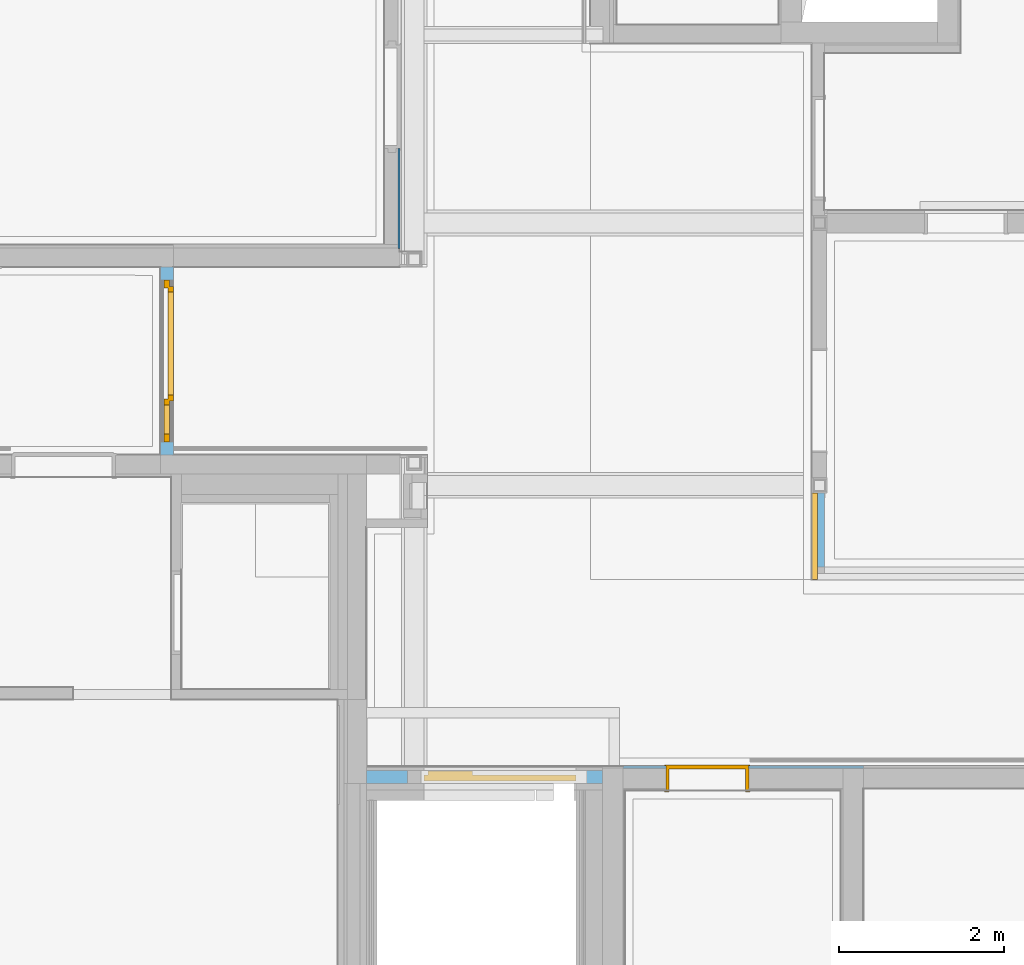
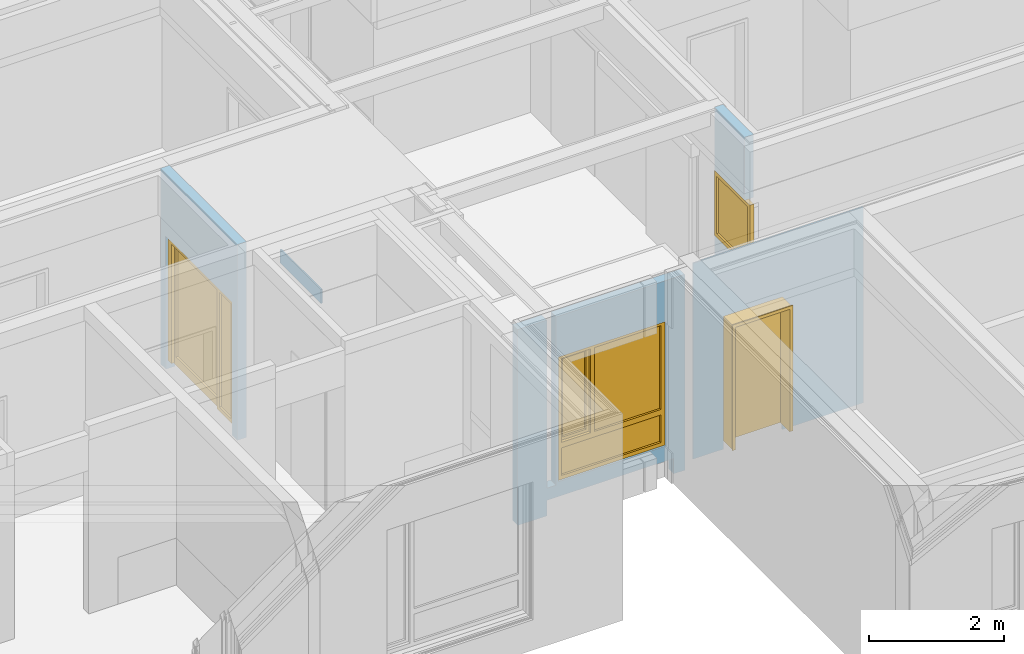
# One storey, part 81 of 222: 2 doors, 2 windows, 1 wall, 4 openings, plus 4 elements that do not belong to this part.
"""IFC4 building model written with IfcOpenShell, lengths in metres."""

from ifc_helpers import new_model, entity, si_unit, converted_unit, derived_unit, frame, frame_2d, origin, origin_with_axes, place, context, subcontext, project, spatial, polyline, rectangle, outline, extrude, clip, bounded_halfspace, closed_shell, open_shell, faceted_brep, surface_model, source, transform, mapped, material, type_object, element, fill, save


model = new_model("IFC4")

# Units and contexts
model_context = context("Model", 3, precision=1e-05, world=origin())
body_context = subcontext(model_context, "Body", "Model", "MODEL_VIEW")
ifc_project = project(units=[si_unit("LENGTHUNIT", "METRE"), si_unit("AREAUNIT", "SQUARE_METRE"), si_unit("VOLUMEUNIT", "CUBIC_METRE"), si_unit("MASSUNIT", "GRAM", prefix="KILO"), converted_unit("PLANEANGLEUNIT", "DEGREE", entity("IfcPlaneAngleMeasure", 0.0174532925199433), si_unit("PLANEANGLEUNIT", "RADIAN"), dimensions=[0, 0, 0, 0, 0, 0, 0]), derived_unit("THERMALTRANSMITTANCEUNIT", [(si_unit("POWERUNIT", "WATT"), 1), (si_unit("THERMODYNAMICTEMPERATUREUNIT", "KELVIN"), -1), (si_unit("LENGTHUNIT", "METRE"), -2)]), derived_unit("VOLUMETRICFLOWRATEUNIT", [(si_unit("LENGTHUNIT", "METRE"), 3), (converted_unit("TIMEUNIT", "hour", entity("IfcTimeMeasure", 3600.0), si_unit("TIMEUNIT", "SECOND"), dimensions=[0, 0, 1, 0, 0, 0, 0]), -1), (si_unit("LENGTHUNIT", "METRE"), -1)])], contexts=[model_context])

# Site, building, storey
site_placement = place(None, origin())
site = spatial("IfcSite", under=ifc_project, at=site_placement, Name="Psychiatrie Neubau Wunstorf", CompositionType="ELEMENT")
building_placement = place(site_placement, origin())
building = spatial("IfcBuilding", under=site, at=building_placement, Name="Neubau H2 Stationsgebäude", CompositionType="ELEMENT")
storey_placement = place(building_placement, frame((0.0, 0.0, 3.6)))
storey = spatial("IfcBuildingStorey", under=building, at=storey_placement, Name="H2 Ebene +1", CompositionType="ELEMENT", Elevation=3.6)

# Wall, opening, window
ifc_material_1 = material(Name="WA-HD")
wall_1_placement = place(storey_placement, frame((38.03, 0.5000024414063, 0.0), z_axis=(0.0, 0.0, 1.0), x_axis=(-1.0, 3.37231938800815e-16, 0.0)))
wall_1 = element("IfcWall", 1, at=wall_1_placement, inside=storey, material=ifc_material_1, context=body_context, shape_type="Clipping", body=[
    clip(clip(extrude(rectangle(XDim=2.8655, YDim=0.16, at=frame_2d((1.43275, 0.08), x_axis=(1.0, 0.0))), origin_with_axes(), (0.0, 0.0, 1.0), 3.55), bounded_halfspace(frame((1.27750249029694, 0.0800006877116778, 0.28), z_axis=(0.0, 0.0, 1.0), x_axis=(-1.0, 2.86558964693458e-17, 0.0)), True, origin_with_axes(), polyline([(2.36500498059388, 0.16), (0.19, 0.16), (0.19, 1.37542335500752e-06), (2.36500498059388, 1.37542335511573e-06), (2.36500498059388, 0.16)]))), bounded_halfspace(frame((2.28500498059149, 0.0800000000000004, 0.5), z_axis=(0.0, 0.0, -1.0), x_axis=(-3.37231938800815e-16, 1.0, 0.0)), True, origin_with_axes(), polyline([(2.36500498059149, 0.0), (2.36500498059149, 0.16), (2.20500498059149, 0.16), (2.20500498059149, 0.0), (2.36500498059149, 0.0)]))),
])
opening_1_placement = place(wall_1_placement, frame((2.16900498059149, 0.16, 0.55), z_axis=(0.0, -1.0, 0.0), x_axis=(0.0, 0.0, 1.0)))
opening_1 = element("IfcOpeningElement", 2, at=opening_1_placement, cuts=wall_1, Name="Fensteröffnung", ObjectType="Opening", context=body_context, shape_type="SweptSolid", body=[
    extrude(outline(polyline([(2.26, 1.8480211), (2.26, 0.0), (0.0, 0.0), (0.0, 1.8480211), (2.26, 1.8480211)])), origin_with_axes(), (0.0, 0.0, 1.0), 0.16),
])
shared_shape_1 = source(origin_with_axes(), body_context, "Body", "SurfaceModel", [
    surface_model("IfcShellBasedSurfaceModel", [(1.8480211, 0.0, 2.26), (1.8480211, 0.0, 0.0), (1.77802109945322, 0.0, 0.0), (1.77802109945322, 0.0, 2.26), (1.8480211, 0.0700000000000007, 0.0), (1.8480211, 0.0700000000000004, 2.26), (1.77802109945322, 0.0700000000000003, 2.26), (1.77802109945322, 0.0700000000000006, 0.0)], [closed_shell([[[0, 1, 2, 3]], [[4, 5, 6, 7]], [[1, 0, 5, 4]], [[2, 1, 4, 7]], [[3, 2, 7, 6]], [[0, 3, 6, 5]]], orient=[[False], [False], [False], [False], [False], [False]])]),
    surface_model("IfcShellBasedSurfaceModel", [(0.0700000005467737, 0.0, 2.26), (0.0700000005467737, 0.0, 0.0), (0.0, 0.0, 0.0), (0.0, 0.0, 2.26), (0.0700000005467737, 0.0700000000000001, 0.0), (0.0700000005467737, 0.0699999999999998, 2.26), (0.0, 0.0699999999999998, 2.26), (0.0, 0.0700000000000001, 0.0)], [closed_shell([[[0, 1, 2, 3]], [[4, 5, 6, 7]], [[1, 0, 5, 4]], [[2, 1, 4, 7]], [[3, 2, 7, 6]], [[0, 3, 6, 5]]], orient=[[False], [False], [False], [False], [False], [False]])]),
    surface_model("IfcShellBasedSurfaceModel", [(1.77802109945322, 0.0, 0.07), (1.77802109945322, 0.0, 0.0), (0.0700000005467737, 0.0, 0.0), (0.0700000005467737, 0.0, 0.07), (1.77802109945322, 0.0700000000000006, 0.0), (1.77802109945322, 0.0700000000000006, 0.07), (0.0700000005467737, 0.0700000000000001, 0.07), (0.0700000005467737, 0.0700000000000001, 0.0)], [closed_shell([[[0, 1, 2, 3]], [[4, 5, 6, 7]], [[1, 0, 5, 4]], [[2, 1, 4, 7]], [[3, 2, 7, 6]], [[0, 3, 6, 5]]], orient=[[False], [False], [False], [False], [False], [False]])]),
    surface_model("IfcShellBasedSurfaceModel", [(1.77802109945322, 0.0, 2.26), (1.77802109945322, 0.0, 2.19), (0.0700000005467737, 0.0, 2.19), (0.0700000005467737, 0.0, 2.26), (1.77802109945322, 0.0700000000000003, 2.19), (1.77802109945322, 0.0700000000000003, 2.26), (0.0700000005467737, 0.0699999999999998, 2.26), (0.0700000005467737, 0.0699999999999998, 2.19)], [closed_shell([[[0, 1, 2, 3]], [[4, 5, 6, 7]], [[1, 0, 5, 4]], [[2, 1, 4, 7]], [[3, 2, 7, 6]], [[0, 3, 6, 5]]], orient=[[False], [False], [False], [False], [False], [False]])]),
    surface_model("IfcShellBasedSurfaceModel", [(1.77802109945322, 0.0, 0.67), (1.77802109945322, 0.0, 0.57), (0.0700000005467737, 0.0, 0.57), (0.0700000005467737, 0.0, 0.67), (1.77802109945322, 0.0700000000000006, 0.57), (1.77802109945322, 0.0700000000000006, 0.67), (0.0700000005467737, 0.07, 0.67), (0.0700000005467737, 0.07, 0.57)], [closed_shell([[[0, 1, 2, 3]], [[4, 5, 6, 7]], [[1, 0, 5, 4]], [[2, 1, 4, 7]], [[3, 2, 7, 6]], [[0, 3, 6, 5]]], orient=[[False], [False], [False], [False], [False], [False]])]),
    surface_model("IfcShellBasedSurfaceModel", [(1.77802109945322, 0.0350000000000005, 0.07), (0.0700000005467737, 0.0349999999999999, 0.07), (0.0700000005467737, 0.0349999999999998, 0.57), (1.77802109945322, 0.0350000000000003, 0.57)], [open_shell([[[0, 1, 2, 3]]], orient=[[False]])]),
    surface_model("IfcShellBasedSurfaceModel", [(1.27802109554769, 0.0, 2.19), (1.27802109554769, 0.0, 0.67), (1.20802109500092, 0.0, 0.67), (1.20802109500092, 0.0, 2.19), (1.27802109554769, 0.0700000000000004, 0.67), (1.27802109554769, 0.0700000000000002, 2.19), (1.20802109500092, 0.0700000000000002, 2.19), (1.20802109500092, 0.0700000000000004, 0.67)], [closed_shell([[[0, 1, 2, 3]], [[4, 5, 6, 7]], [[1, 0, 5, 4]], [[2, 1, 4, 7]], [[3, 2, 7, 6]], [[0, 3, 6, 5]]], orient=[[False], [False], [False], [False], [False], [False]])]),
    surface_model("IfcShellBasedSurfaceModel", [(1.79802109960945, -0.0500000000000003, 2.21), (1.79802109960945, -0.0500000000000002, 0.65), (1.72802109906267, -0.0500000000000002, 0.65), (1.72802109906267, -0.0500000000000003, 2.21), (1.79802109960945, 0.0200000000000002, 0.65), (1.79802109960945, 0.0200000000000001, 2.21), (1.72802109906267, 0.0200000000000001, 2.21), (1.72802109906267, 0.0200000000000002, 0.65)], [closed_shell([[[0, 1, 2, 3]], [[4, 5, 6, 7]], [[1, 0, 5, 4]], [[2, 1, 4, 7]], [[3, 2, 7, 6]], [[0, 3, 6, 5]]], orient=[[False], [False], [False], [False], [False], [False]])]),
    surface_model("IfcShellBasedSurfaceModel", [(1.32802109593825, -0.0500000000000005, 2.21), (1.32802109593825, -0.0500000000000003, 0.65), (1.25802109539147, -0.0500000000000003, 0.65), (1.25802109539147, -0.0500000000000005, 2.21), (1.32802109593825, 0.0200000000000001, 0.65), (1.32802109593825, 0.0199999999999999, 2.21), (1.25802109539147, 0.0199999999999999, 2.21), (1.25802109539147, 0.0200000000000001, 0.65)], [closed_shell([[[0, 1, 2, 3]], [[4, 5, 6, 7]], [[1, 0, 5, 4]], [[2, 1, 4, 7]], [[3, 2, 7, 6]], [[0, 3, 6, 5]]], orient=[[False], [False], [False], [False], [False], [False]])]),
    surface_model("IfcShellBasedSurfaceModel", [(1.72802109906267, -0.0500000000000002, 0.72), (1.72802109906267, -0.0500000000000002, 0.65), (1.32802109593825, -0.0500000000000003, 0.65), (1.32802109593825, -0.0500000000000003, 0.72), (1.72802109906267, 0.0200000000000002, 0.65), (1.72802109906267, 0.0200000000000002, 0.72), (1.32802109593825, 0.0200000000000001, 0.72), (1.32802109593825, 0.0200000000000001, 0.65)], [closed_shell([[[0, 1, 2, 3]], [[4, 5, 6, 7]], [[1, 0, 5, 4]], [[2, 1, 4, 7]], [[3, 2, 7, 6]], [[0, 3, 6, 5]]], orient=[[False], [False], [False], [False], [False], [False]])]),
    surface_model("IfcShellBasedSurfaceModel", [(1.72802109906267, -0.0500000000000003, 2.21), (1.72802109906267, -0.0500000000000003, 2.14), (1.32802109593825, -0.0500000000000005, 2.14), (1.32802109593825, -0.0500000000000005, 2.21), (1.72802109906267, 0.0200000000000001, 2.14), (1.72802109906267, 0.0200000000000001, 2.21), (1.32802109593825, 0.0199999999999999, 2.21), (1.32802109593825, 0.0199999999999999, 2.14)], [closed_shell([[[0, 1, 2, 3]], [[4, 5, 6, 7]], [[1, 0, 5, 4]], [[2, 1, 4, 7]], [[3, 2, 7, 6]], [[0, 3, 6, 5]]], orient=[[False], [False], [False], [False], [False], [False]])]),
    surface_model("IfcShellBasedSurfaceModel", [(1.20802109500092, 0.0350000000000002, 0.67), (0.0700000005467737, 0.0349999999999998, 0.67), (0.0700000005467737, 0.0349999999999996, 2.19), (1.20802109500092, 0.035, 2.19)], [open_shell([[[0, 1, 2, 3]]], orient=[[False]])]),
    surface_model("IfcShellBasedSurfaceModel", [(1.72802109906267, -0.0149999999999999, 0.72), (1.32802109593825, -0.0150000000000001, 0.72), (1.32802109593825, -0.0150000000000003, 2.14), (1.72802109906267, -0.0150000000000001, 2.14)], [open_shell([[[0, 1, 2, 3]]], orient=[[False]])]),
])
window_1_placement = place(opening_1_placement, frame((0.0, 1.8480211, 0.100999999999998), z_axis=(1.0, 0.0, 0.0), x_axis=(0.0, -1.0, 1.117881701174e-18)))
window_1 = element("IfcWindow", 3, at=window_1_placement, inside=storey, Name="Fenster", OverallHeight=2.26, OverallWidth=1.84802, PartitioningType="USERDEFINED", PredefinedType="WINDOW", context=body_context, shape_type="MappedRepresentation", body=[
    mapped(shared_shape_1, transform((0.0, 0.0, 0.0), x_axis=(1.0, 0.0, 0.0), y_axis=(0.0, 1.0, 0.0), z_axis=(0.0, 0.0, 1.0), scale=1.0)),
])
fill(opening_1, window_1)

# Wall, opening, door
ifc_material_2 = material(Name="WI-LB")
wall_2_placement = place(storey_placement, frame((41.2, 0.549, 0.0), z_axis=(0.0, 0.0, 1.0), x_axis=(-1.0, 2.72536939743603e-16, 0.0)))
wall_2 = element("IfcWall", 4, at=wall_2_placement, inside=storey, material=ifc_material_2, context=body_context, shape_type="SweptSolid", body=[
    extrude(rectangle(XDim=2.91999999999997, YDim=0.024, at=frame_2d((1.45999999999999, 0.012), x_axis=(1.0, 0.0))), origin_with_axes(), (0.0, 0.0, 1.0), 3.55),
])
opening_2_placement = place(wall_2_placement, frame((2.39999999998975, 0.024, 0.0), z_axis=(0.0, -1.0, 0.0), x_axis=(0.0, 0.0, 1.0)))
opening_2 = element("IfcOpeningElement", 5, at=opening_2_placement, cuts=wall_2, Name="Türöffnung", ObjectType="Opening", context=body_context, shape_type="SweptSolid", body=[
    extrude(outline(polyline([(2.41, 1.01), (2.41, 0.0), (0.0, 0.0), (0.0, 1.01), (2.41, 1.01)])), origin_with_axes(), (0.0, 0.0, 1.0), 0.024),
])
ifc_material_3 = material(Name="TI-1F-UZ-D")
door_type = type_object("IfcDoorType", Name="SMT", OperationType="SINGLE_SWING_RIGHT", ParameterTakesPrecedence=False, PredefinedType="DOOR")
shared_shape_2 = source(origin_with_axes(), body_context, "Body", "Brep", [
    faceted_brep([(0.0, -0.0150000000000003, 2.41), (0.04, -0.0150000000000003, 2.41), (0.04, -0.015, 0.15), (0.0, -0.015, 0.15), (0.0, 0.313, 0.15), (0.04, 0.313, 0.15), (0.04, 0.313, 2.41), (0.0, 0.313, 2.41)], [[[0, 1, 2, 3]], [[4, 5, 6, 7]], [[3, 4, 7, 0]], [[2, 5, 4, 3]], [[1, 6, 5, 2]], [[0, 7, 6, 1]]], orient=[[False], [False], [False], [False], [False], [False]]),
    faceted_brep([(0.0, -0.0150000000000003, 2.425), (0.0, -0.015, 0.15), (-0.015, -0.015, 0.15), (-0.015, -0.0150000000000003, 2.425), (0.0, 0.0, 0.15), (0.0, 0.0, 2.425), (-0.015, 0.0, 2.425), (-0.015, 0.0, 0.15)], [[[0, 1, 2, 3]], [[4, 5, 6, 7]], [[1, 0, 5, 4]], [[2, 1, 4, 7]], [[3, 2, 7, 6]], [[0, 3, 6, 5]]], orient=[[False], [False], [False], [False], [False], [False]]),
    faceted_brep([(0.0, 0.298, 2.425), (0.0, 0.298, 0.15), (-0.015, 0.298, 0.15), (-0.015, 0.298, 2.425), (0.0, 0.313, 0.15), (0.0, 0.313, 2.425), (-0.015, 0.313, 2.425), (-0.015, 0.313, 0.15)], [[[0, 1, 2, 3]], [[4, 5, 6, 7]], [[1, 0, 5, 4]], [[2, 1, 4, 7]], [[3, 2, 7, 6]], [[0, 3, 6, 5]]], orient=[[False], [False], [False], [False], [False], [False]]),
    faceted_brep([(0.97, -0.0150000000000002, 2.41), (1.01, -0.0150000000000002, 2.41), (1.01, -0.0149999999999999, 0.15), (0.97, -0.0149999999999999, 0.15), (0.97, 0.313, 0.15), (1.01, 0.313, 0.15), (1.01, 0.313, 2.41), (0.97, 0.313, 2.41)], [[[0, 1, 2, 3]], [[4, 5, 6, 7]], [[3, 4, 7, 0]], [[2, 5, 4, 3]], [[1, 6, 5, 2]], [[0, 7, 6, 1]]], orient=[[False], [False], [False], [False], [False], [False]]),
    faceted_brep([(1.01, -0.0150000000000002, 2.425), (1.025, -0.0150000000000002, 2.425), (1.025, -0.0149999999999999, 0.15), (1.01, -0.0149999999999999, 0.15), (1.01, 0.0, 0.15), (1.025, 0.0, 0.15), (1.025, 0.0, 2.425), (1.01, 0.0, 2.425)], [[[0, 1, 2, 3]], [[4, 5, 6, 7]], [[3, 4, 7, 0]], [[2, 5, 4, 3]], [[1, 6, 5, 2]], [[0, 7, 6, 1]]], orient=[[False], [False], [False], [False], [False], [False]]),
    faceted_brep([(1.01, 0.298, 2.425), (1.025, 0.298, 2.425), (1.025, 0.298, 0.15), (1.01, 0.298, 0.15), (1.01, 0.313, 0.15), (1.025, 0.313, 0.15), (1.025, 0.313, 2.425), (1.01, 0.313, 2.425)], [[[0, 1, 2, 3]], [[4, 5, 6, 7]], [[3, 4, 7, 0]], [[2, 5, 4, 3]], [[1, 6, 5, 2]], [[0, 7, 6, 1]]], orient=[[False], [False], [False], [False], [False], [False]]),
    faceted_brep([(0.04, -0.0150000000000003, 2.41), (0.97, -0.0150000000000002, 2.41), (0.97, -0.0150000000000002, 2.37), (0.04, -0.0150000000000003, 2.37), (0.04, 0.313, 2.37), (0.97, 0.313, 2.37), (0.97, 0.313, 2.41), (0.04, 0.313, 2.41)], [[[0, 1, 2, 3]], [[4, 5, 6, 7]], [[3, 4, 7, 0]], [[2, 5, 4, 3]], [[1, 6, 5, 2]], [[0, 7, 6, 1]]], orient=[[False], [False], [False], [False], [False], [False]]),
    faceted_brep([(0.0, -0.0150000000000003, 2.425), (1.01, -0.0150000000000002, 2.425), (1.01, -0.0150000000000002, 2.41), (0.0, -0.0150000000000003, 2.41), (0.0, 0.0, 2.41), (1.01, 0.0, 2.41), (1.01, 0.0, 2.425), (0.0, 0.0, 2.425)], [[[0, 1, 2, 3]], [[4, 5, 6, 7]], [[3, 4, 7, 0]], [[2, 5, 4, 3]], [[1, 6, 5, 2]], [[0, 7, 6, 1]]], orient=[[False], [False], [False], [False], [False], [False]]),
    faceted_brep([(0.0, 0.298, 2.425), (1.01, 0.298, 2.425), (1.01, 0.298, 2.41), (0.0, 0.298, 2.41), (0.0, 0.313, 2.41), (1.01, 0.313, 2.41), (1.01, 0.313, 2.425), (0.0, 0.313, 2.425)], [[[0, 1, 2, 3]], [[4, 5, 6, 7]], [[3, 4, 7, 0]], [[2, 5, 4, 3]], [[1, 6, 5, 2]], [[0, 7, 6, 1]]], orient=[[False], [False], [False], [False], [False], [False]]),
    faceted_brep([(0.025, 0.264, 2.385), (0.985, 0.264, 2.385), (0.985, 0.264, 0.15), (0.025, 0.264, 0.15), (0.025, 0.314, 0.15), (0.985, 0.314, 0.15), (0.985, 0.314, 2.385), (0.025, 0.314, 2.385)], [[[0, 1, 2, 3]], [[4, 5, 6, 7]], [[3, 4, 7, 0]], [[2, 5, 4, 3]], [[1, 6, 5, 2]], [[0, 7, 6, 1]]], orient=[[False], [False], [False], [False], [False], [False]]),
])
door_1_placement = place(opening_2_placement, frame((0.0, 0.0, -0.274), z_axis=(1.0, 0.0, 0.0), x_axis=(0.0, 1.0, 1.9274182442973e-17)))
door_1 = element("IfcDoor", 6, at=door_1_placement, inside=storey, type_object=door_type, material=ifc_material_3, Name="SMT", OverallHeight=2.41, OverallWidth=1.01, context=body_context, shape_type="MappedRepresentation", body=[
    mapped(shared_shape_2, transform((0.0, 0.0, 0.0), x_axis=(1.0, 0.0, 0.0), y_axis=(0.0, 1.0, 0.0), z_axis=(0.0, 0.0, 1.0), scale=1.0)),
])
fill(opening_2, door_1)

# Wall
wall_3_placement = place(storey_placement, frame((35.545, 6.83950504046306, -0.05)))
element("IfcWall", 7, at=wall_3_placement, inside=storey, Name="WV 1.1", context=body_context, shape_type="Brep", body=[
    faceted_brep([(0.0, 0.0, 0.0), (0.025, 0.0, 0.0), (0.025, 1.21, 0.0), (0.0, 1.21, 0.0), (0.025, 0.0, 0.25), (0.0, 0.0, 0.25), (0.0, 1.21, 0.25), (0.025, 1.21, 0.25)], [[[0, 1, 2, 3]], [[4, 5, 6, 7]], [[1, 0, 5, 4]], [[2, 1, 4, 7]], [[3, 2, 7, 6]], [[0, 3, 6, 5]]], orient=[[False], [False], [False], [False], [False], [False]]),
])

# Wall, opening, window
ifc_material_4 = material(Name="WI-LB")
wall_4_placement = place(storey_placement, frame((40.5749975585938, 3.8699969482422, 0.0), z_axis=(0.0, 0.0, 1.0), x_axis=(0.0, -1.0, 0.0)))
wall_4 = element("IfcWall", 8, at=wall_4_placement, inside=storey, material=ifc_material_4, context=body_context, shape_type="SweptSolid", body=[
    extrude(rectangle(XDim=0.902647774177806, YDim=0.15, at=frame_2d((0.451323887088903, 0.075), x_axis=(1.0, 0.0))), origin_with_axes(), (0.0, 0.0, 1.0), 3.55),
])
opening_3_placement = place(wall_4_placement, frame((1.05249725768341, 0.15, 1.23), z_axis=(0.0, -1.0, 0.0), x_axis=(0.0, 0.0, 1.0)))
opening_3 = element("IfcOpeningElement", 9, at=opening_3_placement, cuts=wall_4, Name="Fensteröffnung", ObjectType="Opening", context=body_context, shape_type="SweptSolid", body=[
    extrude(outline(polyline([(1.18, 1.05249725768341), (1.18, 0.0), (0.0, 0.0), (0.0, 1.05249725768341), (1.18, 1.05249725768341)])), origin_with_axes(), (0.0, 0.0, 1.0), 0.15),
])
shared_shape_3 = source(origin_with_axes(), body_context, "Body", "SurfaceModel", [
    surface_model("IfcShellBasedSurfaceModel", [(0.0, 0.0, 1.18), (0.0699999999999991, 0.0, 1.18), (0.0699999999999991, 0.0, 0.0), (0.0, 0.0, 0.0), (0.0, 0.0700000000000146, 0.0), (0.0699999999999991, 0.0700000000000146, 0.0), (0.0699999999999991, 0.0700000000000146, 1.18), (0.0, 0.0700000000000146, 1.18)], [closed_shell([[[0, 1, 2, 3]], [[4, 5, 6, 7]], [[3, 4, 7, 0]], [[2, 5, 4, 3]], [[1, 6, 5, 2]], [[0, 7, 6, 1]]], orient=[[False], [False], [False], [False], [False], [False]])]),
    surface_model("IfcShellBasedSurfaceModel", [(0.982497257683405, 0.0, 1.18), (1.0524972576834, 0.0, 1.18), (1.0524972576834, 0.0, 0.0), (0.982497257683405, 0.0, 0.0), (0.982497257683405, 0.0700000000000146, 0.0), (1.0524972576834, 0.0700000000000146, 0.0), (1.0524972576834, 0.0700000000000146, 1.18), (0.982497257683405, 0.0700000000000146, 1.18)], [closed_shell([[[0, 1, 2, 3]], [[4, 5, 6, 7]], [[3, 4, 7, 0]], [[2, 5, 4, 3]], [[1, 6, 5, 2]], [[0, 7, 6, 1]]], orient=[[False], [False], [False], [False], [False], [False]])]),
    surface_model("IfcShellBasedSurfaceModel", [(0.0699999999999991, 0.0, 0.07), (0.982497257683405, 0.0, 0.07), (0.982497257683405, 0.0, 0.0), (0.0699999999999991, 0.0, 0.0), (0.0699999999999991, 0.0700000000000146, 0.0), (0.982497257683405, 0.0700000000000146, 0.0), (0.982497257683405, 0.0700000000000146, 0.07), (0.0699999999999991, 0.0700000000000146, 0.07)], [closed_shell([[[0, 1, 2, 3]], [[4, 5, 6, 7]], [[3, 4, 7, 0]], [[2, 5, 4, 3]], [[1, 6, 5, 2]], [[0, 7, 6, 1]]], orient=[[False], [False], [False], [False], [False], [False]])]),
    surface_model("IfcShellBasedSurfaceModel", [(0.0699999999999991, 0.0, 1.18), (0.982497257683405, 0.0, 1.18), (0.982497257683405, 0.0, 1.11), (0.0699999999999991, 0.0, 1.11), (0.0699999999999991, 0.0700000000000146, 1.11), (0.982497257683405, 0.0700000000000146, 1.11), (0.982497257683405, 0.0700000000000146, 1.18), (0.0699999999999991, 0.0700000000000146, 1.18)], [closed_shell([[[0, 1, 2, 3]], [[4, 5, 6, 7]], [[3, 4, 7, 0]], [[2, 5, 4, 3]], [[1, 6, 5, 2]], [[0, 7, 6, 1]]], orient=[[False], [False], [False], [False], [False], [False]])]),
    surface_model("IfcShellBasedSurfaceModel", [(0.0699999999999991, 0.0350000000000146, 0.07), (0.0699999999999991, 0.0350000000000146, 1.11), (0.982497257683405, 0.0350000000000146, 1.11), (0.982497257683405, 0.0350000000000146, 0.07)], [open_shell([[[0, 1, 2, 3]]], orient=[[False]])]),
])
window_2_placement = place(opening_3_placement, frame((0.0, 0.0, 0.08), z_axis=(1.0, 0.0, 0.0), x_axis=(0.0, 1.0, 0.0)))
window_2 = element("IfcWindow", 10, at=window_2_placement, inside=storey, Name="Fenster", OverallHeight=1.18, OverallWidth=1.0525, PartitioningType="USERDEFINED", PredefinedType="WINDOW", context=body_context, shape_type="MappedRepresentation", body=[
    mapped(shared_shape_3, transform((0.0, 0.0, 0.0), x_axis=(1.0, 0.0, 0.0), y_axis=(0.0, 1.0, 0.0), z_axis=(0.0, 0.0, 1.0), scale=1.0)),
])
fill(opening_3, window_2)

# Wall, opening, door
ifc_material_5 = material(Name="WI-LB")
wall_5_placement = place(storey_placement, frame((32.6634999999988, 6.61199999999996, 0.0), z_axis=(0.0, 0.0, 1.0), x_axis=(0.0, -1.0, 0.0)))
wall_5 = element("IfcWall", 11, at=wall_5_placement, inside=storey, material=ifc_material_5, context=body_context, shape_type="SweptSolid", body=[
    extrude(rectangle(XDim=2.28125036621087, YDim=0.155, at=frame_2d((1.14062518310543, 0.0775), x_axis=(1.0, 0.0))), origin_with_axes(), (0.0, 0.0, 1.0), 3.55),
])
opening_4_placement = place(wall_5_placement, frame((0.15500018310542, 0.0, 0.0), z_axis=(0.0, 1.0, 0.0), x_axis=(0.0, 0.0, 1.0)))
opening_4 = element("IfcOpeningElement", 12, at=opening_4_placement, cuts=wall_5, Name="Türöffnung", ObjectType="Opening", context=body_context, shape_type="SweptSolid", body=[
    extrude(outline(polyline([(2.41, 1.9713), (2.41, 0.0), (0.0, 0.0), (0.0, 1.9713), (2.41, 1.9713)])), origin_with_axes(), (0.0, 0.0, 1.0), 0.154999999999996),
])
ifc_material_6 = material(Name="TI-2F-AG-D-O")
shared_shape_4 = source(origin_with_axes(), body_context, "Body", "Brep", [
    faceted_brep([(-0.127499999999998, -0.0150000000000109, 0.0), (-0.0274999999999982, -0.0150000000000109, 0.0), (-0.0274999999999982, 0.0849999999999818, 0.0), (-0.127499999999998, 0.0849999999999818, 0.0), (-0.127499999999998, 0.0849999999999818, 3.55), (-0.0274999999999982, 0.0849999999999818, 3.55), (-0.0274999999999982, -0.0150000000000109, 3.55), (-0.127499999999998, -0.0150000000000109, 3.55)], [[[0, 1, 2, 3]], [[4, 5, 6, 7]], [[3, 4, 7, 0]], [[2, 5, 4, 3]], [[1, 6, 5, 2]], [[0, 7, 6, 1]]], orient=[[False], [False], [False], [False], [False], [False]]),
    faceted_brep([(1.9988, -0.0150000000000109, 0.0), (2.0988, -0.0150000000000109, 0.0), (2.0988, 0.0849999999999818, 0.0), (1.9988, 0.0849999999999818, 0.0), (1.9988, 0.0849999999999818, 3.55), (2.0988, 0.0849999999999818, 3.55), (2.0988, -0.0150000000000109, 3.55), (1.9988, -0.0150000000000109, 3.55)], [[[0, 1, 2, 3]], [[4, 5, 6, 7]], [[3, 4, 7, 0]], [[2, 5, 4, 3]], [[1, 6, 5, 2]], [[0, 7, 6, 1]]], orient=[[False], [False], [False], [False], [False], [False]]),
    faceted_brep([(-0.0274999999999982, -0.0150000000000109, 2.4375), (1.9988, -0.0150000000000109, 2.4375), (1.9988, 0.0849999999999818, 2.4375), (-0.0274999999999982, 0.0849999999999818, 2.4375), (-0.0274999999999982, 0.0849999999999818, 2.5375), (1.9988, 0.0849999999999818, 2.5375), (1.9988, -0.0150000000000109, 2.5375), (-0.0274999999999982, -0.0150000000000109, 2.5375)], [[[0, 1, 2, 3]], [[4, 5, 6, 7]], [[3, 4, 7, 0]], [[2, 5, 4, 3]], [[1, 6, 5, 2]], [[0, 7, 6, 1]]], orient=[[False], [False], [False], [False], [False], [False]]),
])
shared_shape_5 = source(origin_with_axes(), body_context, "Body", "SurfaceModel", [
    surface_model("IfcShellBasedSurfaceModel", [(0.0, 0.0, 2.41), (0.100000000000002, 0.0, 2.41), (0.100000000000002, 0.0, 0.15), (0.0, 0.0, 0.15), (0.0, 0.0699999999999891, 0.15), (0.100000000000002, 0.0699999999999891, 0.15), (0.100000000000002, 0.0699999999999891, 2.41), (0.0, 0.0699999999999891, 2.41)], [closed_shell([[[0, 1, 2, 3]], [[4, 5, 6, 7]], [[3, 4, 7, 0]], [[2, 5, 4, 3]], [[1, 6, 5, 2]], [[0, 7, 6, 1]]], orient=[[False], [False], [False], [False], [False], [False]])]),
    surface_model("IfcShellBasedSurfaceModel", [(1.8713, 0.0, 2.41), (1.9713, 0.0, 2.41), (1.9713, 0.0, 0.15), (1.8713, 0.0, 0.15), (1.8713, 0.0699999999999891, 0.15), (1.9713, 0.0699999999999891, 0.15), (1.9713, 0.0699999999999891, 2.41), (1.8713, 0.0699999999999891, 2.41)], [closed_shell([[[0, 1, 2, 3]], [[4, 5, 6, 7]], [[3, 4, 7, 0]], [[2, 5, 4, 3]], [[1, 6, 5, 2]], [[0, 7, 6, 1]]], orient=[[False], [False], [False], [False], [False], [False]])]),
    surface_model("IfcShellBasedSurfaceModel", [(0.100000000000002, 0.0, 2.41), (1.8713, 0.0, 2.41), (1.8713, 0.0, 2.31), (0.100000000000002, 0.0, 2.31), (0.100000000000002, 0.0699999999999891, 2.31), (1.8713, 0.0699999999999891, 2.31), (1.8713, 0.0699999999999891, 2.41), (0.100000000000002, 0.0699999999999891, 2.41)], [closed_shell([[[0, 1, 2, 3]], [[4, 5, 6, 7]], [[3, 4, 7, 0]], [[2, 5, 4, 3]], [[1, 6, 5, 2]], [[0, 7, 6, 1]]], orient=[[False], [False], [False], [False], [False], [False]])]),
    surface_model("IfcShellBasedSurfaceModel", [(1.45, 0.0, 2.31), (1.52, 0.0, 2.31), (1.52, 0.0, 0.15), (1.45, 0.0, 0.15), (1.45, 0.0699999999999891, 0.15), (1.52, 0.0699999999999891, 0.15), (1.52, 0.0699999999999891, 2.31), (1.45, 0.0699999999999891, 2.31)], [closed_shell([[[0, 1, 2, 3]], [[4, 5, 6, 7]], [[3, 4, 7, 0]], [[2, 5, 4, 3]], [[1, 6, 5, 2]], [[0, 7, 6, 1]]], orient=[[False], [False], [False], [False], [False], [False]])]),
    surface_model("IfcShellBasedSurfaceModel", [(0.0800000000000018, 0.0499999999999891, 2.33), (0.150000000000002, 0.0499999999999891, 2.33), (0.150000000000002, 0.0499999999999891, 0.13), (0.0800000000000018, 0.0499999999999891, 0.13), (0.0800000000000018, 0.119999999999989, 0.13), (0.150000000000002, 0.119999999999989, 0.13), (0.150000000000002, 0.119999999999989, 2.33), (0.0800000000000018, 0.119999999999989, 2.33)], [closed_shell([[[0, 1, 2, 3]], [[4, 5, 6, 7]], [[3, 4, 7, 0]], [[2, 5, 4, 3]], [[1, 6, 5, 2]], [[0, 7, 6, 1]]], orient=[[False], [False], [False], [False], [False], [False]])]),
    surface_model("IfcShellBasedSurfaceModel", [(1.4, 0.0499999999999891, 2.33), (1.47, 0.0499999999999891, 2.33), (1.47, 0.0499999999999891, 0.13), (1.4, 0.0499999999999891, 0.13), (1.4, 0.119999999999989, 0.13), (1.47, 0.119999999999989, 0.13), (1.47, 0.119999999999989, 2.33), (1.4, 0.119999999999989, 2.33)], [closed_shell([[[0, 1, 2, 3]], [[4, 5, 6, 7]], [[3, 4, 7, 0]], [[2, 5, 4, 3]], [[1, 6, 5, 2]], [[0, 7, 6, 1]]], orient=[[False], [False], [False], [False], [False], [False]])]),
    surface_model("IfcShellBasedSurfaceModel", [(0.150000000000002, 0.0499999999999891, 0.28), (1.4, 0.0499999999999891, 0.28), (1.4, 0.0499999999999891, 0.13), (0.150000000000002, 0.0499999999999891, 0.13), (0.150000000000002, 0.119999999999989, 0.13), (1.4, 0.119999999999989, 0.13), (1.4, 0.119999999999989, 0.28), (0.150000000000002, 0.119999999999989, 0.28)], [closed_shell([[[0, 1, 2, 3]], [[4, 5, 6, 7]], [[3, 4, 7, 0]], [[2, 5, 4, 3]], [[1, 6, 5, 2]], [[0, 7, 6, 1]]], orient=[[False], [False], [False], [False], [False], [False]])]),
    surface_model("IfcShellBasedSurfaceModel", [(0.150000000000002, 0.0499999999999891, 2.33), (1.4, 0.0499999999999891, 2.33), (1.4, 0.0499999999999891, 2.26), (0.150000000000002, 0.0499999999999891, 2.26), (0.150000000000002, 0.119999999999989, 2.26), (1.4, 0.119999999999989, 2.26), (1.4, 0.119999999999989, 2.33), (0.150000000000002, 0.119999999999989, 2.33)], [closed_shell([[[0, 1, 2, 3]], [[4, 5, 6, 7]], [[3, 4, 7, 0]], [[2, 5, 4, 3]], [[1, 6, 5, 2]], [[0, 7, 6, 1]]], orient=[[False], [False], [False], [False], [False], [False]])]),
    surface_model("IfcShellBasedSurfaceModel", [(1.52, 0.0, 0.22), (1.8713, 0.0, 0.22), (1.8713, 0.0, 0.15), (1.52, 0.0, 0.15), (1.52, 0.0699999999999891, 0.15), (1.8713, 0.0699999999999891, 0.15), (1.8713, 0.0699999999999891, 0.22), (1.52, 0.0699999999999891, 0.22)], [closed_shell([[[0, 1, 2, 3]], [[4, 5, 6, 7]], [[3, 4, 7, 0]], [[2, 5, 4, 3]], [[1, 6, 5, 2]], [[0, 7, 6, 1]]], orient=[[False], [False], [False], [False], [False], [False]])]),
    surface_model("IfcShellBasedSurfaceModel", [(0.150000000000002, 0.0849999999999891, 0.28), (0.150000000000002, 0.0849999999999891, 2.26), (1.4, 0.0849999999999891, 2.26), (1.4, 0.0849999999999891, 0.28)], [open_shell([[[0, 1, 2, 3]]], orient=[[False]])]),
    surface_model("IfcShellBasedSurfaceModel", [(1.52, 0.0349999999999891, 0.22), (1.52, 0.0349999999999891, 2.31), (1.8713, 0.0349999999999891, 2.31), (1.8713, 0.0349999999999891, 0.22)], [open_shell([[[0, 1, 2, 3]]], orient=[[False]])]),
])
door_2_placement = place(opening_4_placement, frame((0.0, 0.0, 0.04), z_axis=(1.0, 0.0, 0.0), x_axis=(0.0, 1.0, 0.0)))
door_2 = element("IfcDoor", 13, at=door_2_placement, inside=storey, material=ifc_material_6, Name="SMT", OperationType="USERDEFINED", OverallHeight=2.41, OverallWidth=1.9713, PredefinedType="DOOR", context=body_context, shape_type="MappedRepresentation", body=[
    mapped(shared_shape_4, transform((0.0, 0.0, 0.0), x_axis=(1.0, 0.0, 0.0), y_axis=(0.0, 1.0, 0.0), z_axis=(0.0, 0.0, 1.0), scale=1.0)),
    mapped(shared_shape_5, transform((0.0, 0.0, 0.0), x_axis=(1.0, 0.0, 0.0), y_axis=(0.0, 1.0, 0.0), z_axis=(0.0, 0.0, 1.0), scale=1.0)),
])
fill(opening_4, door_2)

save(model, "model.ifc")
